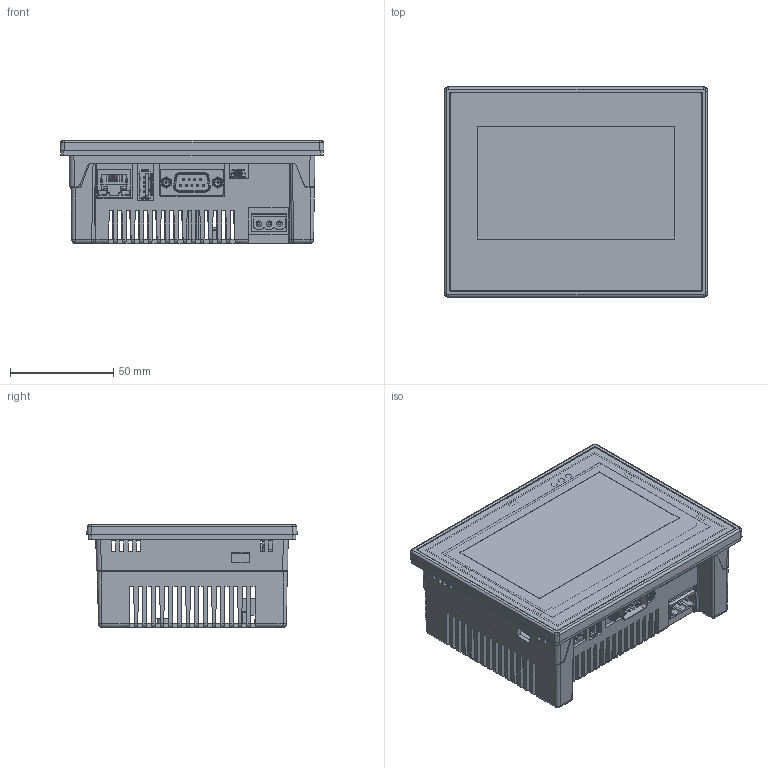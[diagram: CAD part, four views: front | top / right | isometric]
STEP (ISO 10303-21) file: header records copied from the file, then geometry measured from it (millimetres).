
FILE_DESCRIPTION (( 'STEP AP203' ), '1' );
FILE_NAME ('CM-eXT04-D.STEP', '2025-07-09T07:34:12', ( '' ), ( '' ), 'SwSTEP 2.0', 'SolidWorks 2024', '' );
FILE_SCHEMA (( 'CONFIG_CONTROL_DESIGN' ));
Length unit declared in the file: millimetre
Products named in the file (1): CM-eXT04-D
Bounding box: 128 x 102 x 50 mm (x, y, z)
Volume: 91860.5 mm3; surface area: 111603.3 mm2
Topology: 1 solids, 24 shells, 3062 faces, 8915 edges, 5753 vertices
Faces by surface type: plane 2386, cylinder 565, bspline 38, cone 37, sphere 26, torus 10
Entity records: 104238 total; most frequent: CARTESIAN_POINT 23559, ORIENTED_EDGE 17734, DIRECTION 15419, EDGE_CURVE 8867, VECTOR 7459, LINE 7459, VERTEX_POINT 5735, AXIS2_PLACEMENT_3D 3980
